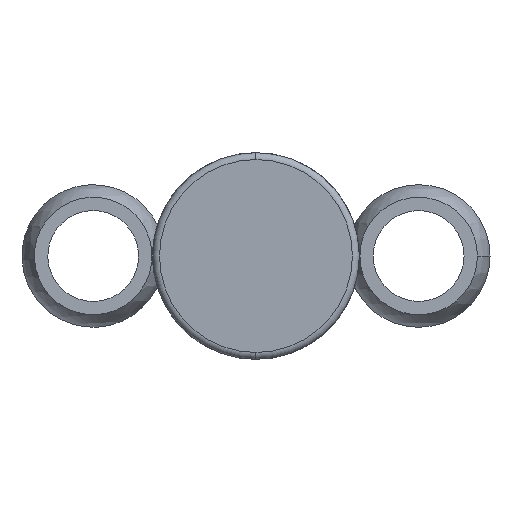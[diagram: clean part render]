
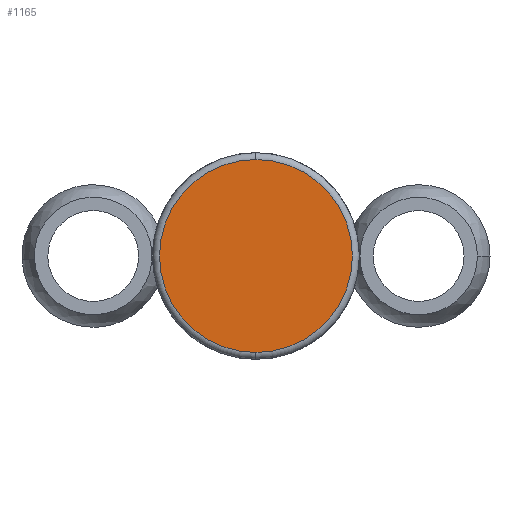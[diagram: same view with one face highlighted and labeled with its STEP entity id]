
A CAD part, front view. The second image highlights one B-rep face of the part: STEP entity #1165.
In plain terms, the highlighted planar face has unit normal (0, -1, 0).
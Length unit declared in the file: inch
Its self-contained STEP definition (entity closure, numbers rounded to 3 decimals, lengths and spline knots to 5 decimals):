
#139 = AXIS2_PLACEMENT_3D ( 'NONE', #712, #961, #725 ) ;
#196 = DIRECTION ( 'NONE',  ( 0., -1., 0. ) ) ;
#202 = EDGE_CURVE ( 'NONE', #1144, #1406, #1401, .T. ) ;
#208 = CARTESIAN_POINT ( 'NONE',  ( 0., -1.575, 0. ) ) ;
#259 = AXIS2_PLACEMENT_3D ( 'NONE', #331, #1348, #1342 ) ;
#283 = FACE_OUTER_BOUND ( 'NONE', #1242, .T. ) ;
#309 = ORIENTED_EDGE ( 'NONE', *, *, #1527, .T. ) ;
#331 = CARTESIAN_POINT ( 'NONE',  ( 0., -1.575, 0. ) ) ;
#335 = PLANE ( 'NONE',  #259 ) ;
#712 = CARTESIAN_POINT ( 'NONE',  ( 0., -1.575, 0. ) ) ;
#725 = DIRECTION ( 'NONE',  ( 0., 0., 1. ) ) ;
#917 = AXIS2_PLACEMENT_3D ( 'NONE', #208, #196, #1063 ) ;
#961 = DIRECTION ( 'NONE',  ( 0., -1., 0. ) ) ;
#987 = CARTESIAN_POINT ( 'NONE',  ( 0., -1.575, -0.42276 ) ) ;
#1063 = DIRECTION ( 'NONE',  ( 0., 0., 1. ) ) ;
#1144 = VERTEX_POINT ( 'NONE', #1219 ) ;
#1165 = ADVANCED_FACE ( 'NONE', ( #283 ), #335, .F. ) ;
#1219 = CARTESIAN_POINT ( 'NONE',  ( 0., -1.575, 0.42276 ) ) ;
#1242 = EDGE_LOOP ( 'NONE', ( #1537, #309 ) ) ;
#1342 = DIRECTION ( 'NONE',  ( 0., 0., 1. ) ) ;
#1348 = DIRECTION ( 'NONE',  ( 0., 1., 0. ) ) ;
#1373 = CIRCLE ( 'NONE', #917, 0.42276 ) ;
#1401 = CIRCLE ( 'NONE', #139, 0.42276 ) ;
#1406 = VERTEX_POINT ( 'NONE', #987 ) ;
#1527 = EDGE_CURVE ( 'NONE', #1406, #1144, #1373, .T. ) ;
#1537 = ORIENTED_EDGE ( 'NONE', *, *, #202, .T. ) ;
